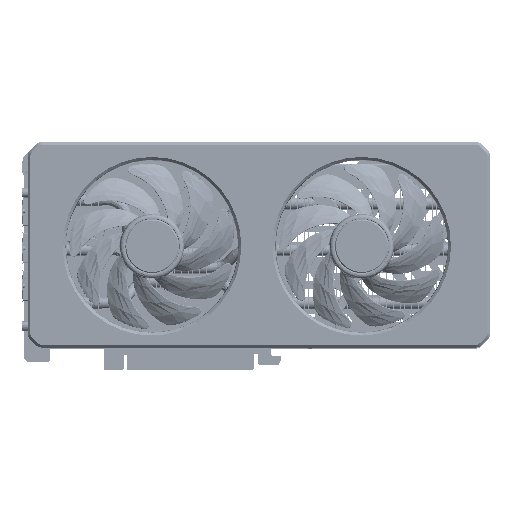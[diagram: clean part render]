
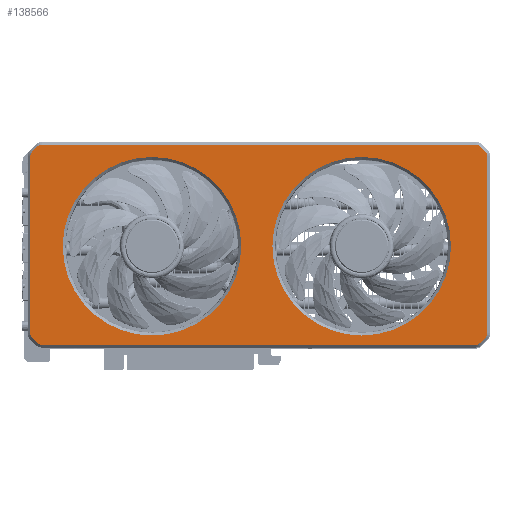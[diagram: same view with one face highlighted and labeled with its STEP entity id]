
A CAD part, top view. The second image highlights one B-rep face of the part: STEP entity #138566.
In plain terms, the highlighted planar face has unit normal (0, 0, 1).
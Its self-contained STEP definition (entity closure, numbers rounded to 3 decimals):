
#131280=CARTESIAN_POINT('',(0.,-59.,23.564));
#131281=DIRECTION('',(0.,0.,-1.));
#131282=DIRECTION('',(1.,0.,0.));
#131283=AXIS2_PLACEMENT_3D('',#131280,#131281,#131282);
#131285=CARTESIAN_POINT('',(0.,-59.,23.564));
#131286=DIRECTION('',(0.,0.,-1.));
#131287=DIRECTION('',(-1.,0.,0.));
#131288=AXIS2_PLACEMENT_3D('',#131285,#131286,#131287);
#131290=CARTESIAN_POINT('',(0.,59.,23.564));
#131291=DIRECTION('',(0.,0.,-1.));
#131292=DIRECTION('',(-1.,0.,0.));
#131293=AXIS2_PLACEMENT_3D('',#131290,#131291,#131292);
#131295=CARTESIAN_POINT('',(0.,59.,23.564));
#131296=DIRECTION('',(0.,0.,-1.));
#131297=DIRECTION('',(1.,0.,0.));
#131298=AXIS2_PLACEMENT_3D('',#131295,#131296,#131297);
#131300=CARTESIAN_POINT('',(52.,123.129,23.564));
#131301=DIRECTION('',(0.,0.,1.));
#131302=DIRECTION('',(1.,0.,0.));
#131303=AXIS2_PLACEMENT_3D('',#131300,#131301,#131302);
#131305=DIRECTION('',(0.,1.,0.));
#131306=VECTOR('',#131305,244.058);
#131307=CARTESIAN_POINT('',(55.5,-120.929,
23.564));
#131308=LINE('',#131307,#131306);
#131309=CARTESIAN_POINT('',(52.,-120.929,23.564));
#131310=DIRECTION('',(0.,0.,1.));
#131311=DIRECTION('',(0.707,-0.707,0.));
#131312=AXIS2_PLACEMENT_3D('',#131309,#131310,#131311);
#131314=DIRECTION('',(0.707,0.707,0.));
#131315=VECTOR('',#131314,4.343);
#131316=CARTESIAN_POINT('',(51.404,-126.475,
23.564));
#131317=LINE('',#131316,#131315);
#131318=CARTESIAN_POINT('',(48.929,-124.,23.564));
#131319=DIRECTION('',(0.,0.,1.));
#131320=DIRECTION('',(0.,-1.,0.));
#131321=AXIS2_PLACEMENT_3D('',#131318,#131319,#131320);
#131323=DIRECTION('',(1.,0.,0.));
#131324=VECTOR('',#131323,99.558);
#131325=CARTESIAN_POINT('',(-50.629,-127.5,
23.564));
#131326=LINE('',#131325,#131324);
#131327=CARTESIAN_POINT('',(-50.629,-124.,23.564));
#131328=DIRECTION('',(0.,0.,1.));
#131329=DIRECTION('',(-0.707,-0.707,0.));
#131330=AXIS2_PLACEMENT_3D('',#131327,#131328,#131329);
#131332=DIRECTION('',(0.707,-0.707,0.));
#131333=VECTOR('',#131332,4.343);
#131334=CARTESIAN_POINT('',(-56.175,-123.404,
23.564));
#131335=LINE('',#131334,#131333);
#131336=CARTESIAN_POINT('',(-53.7,-120.929,23.564));
#131337=DIRECTION('',(0.,0.,1.));
#131338=DIRECTION('',(-1.,0.,0.));
#131339=AXIS2_PLACEMENT_3D('',#131336,#131337,#131338);
#131341=DIRECTION('',(0.,-1.,0.));
#131342=VECTOR('',#131341,244.058);
#131343=CARTESIAN_POINT('',(-57.2,123.129,
23.564));
#131344=LINE('',#131343,#131342);
#131345=CARTESIAN_POINT('',(-53.7,123.129,23.564));
#131346=DIRECTION('',(0.,0.,1.));
#131347=DIRECTION('',(-0.707,0.707,0.));
#131348=AXIS2_PLACEMENT_3D('',#131345,#131346,#131347);
#131350=DIRECTION('',(-0.707,-0.707,0.));
#131351=VECTOR('',#131350,4.343);
#131352=CARTESIAN_POINT('',(-53.104,128.675,
23.564));
#131353=LINE('',#131352,#131351);
#131354=CARTESIAN_POINT('',(-50.629,126.2,23.564));
#131355=DIRECTION('',(0.,0.,1.));
#131356=DIRECTION('',(0.,1.,0.));
#131357=AXIS2_PLACEMENT_3D('',#131354,#131355,#131356);
#131359=DIRECTION('',(-1.,0.,0.));
#131360=VECTOR('',#131359,99.558);
#131361=CARTESIAN_POINT('',(48.929,129.7,
23.564));
#131362=LINE('',#131361,#131360);
#131363=CARTESIAN_POINT('',(48.929,126.2,23.564));
#131364=DIRECTION('',(0.,0.,1.));
#131365=DIRECTION('',(0.707,0.707,0.));
#131366=AXIS2_PLACEMENT_3D('',#131363,#131364,#131365);
#131368=DIRECTION('',(-0.707,0.707,0.));
#131369=VECTOR('',#131368,4.343);
#131370=CARTESIAN_POINT('',(54.475,125.604,
23.564));
#131371=LINE('',#131370,#131369);
#135402=CARTESIAN_POINT('',(50.25,-59.,23.564));
#135403=CARTESIAN_POINT('',(-50.25,-59.,23.564));
#135404=VERTEX_POINT('',#135402);
#135405=VERTEX_POINT('',#135403);
#135410=CARTESIAN_POINT('',(-50.25,59.,23.564));
#135411=CARTESIAN_POINT('',(50.25,59.,23.564));
#135412=VERTEX_POINT('',#135410);
#135413=VERTEX_POINT('',#135411);
#135418=CARTESIAN_POINT('',(55.5,123.129,23.564));
#135419=CARTESIAN_POINT('',(54.475,125.604,
23.564));
#135420=VERTEX_POINT('',#135418);
#135421=VERTEX_POINT('',#135419);
#135426=CARTESIAN_POINT('',(51.404,128.675,
23.564));
#135427=VERTEX_POINT('',#135426);
#135430=CARTESIAN_POINT('',(48.929,129.7,23.564));
#135431=VERTEX_POINT('',#135430);
#135434=CARTESIAN_POINT('',(-50.629,129.7,
23.564));
#135435=VERTEX_POINT('',#135434);
#135438=CARTESIAN_POINT('',(-53.104,128.675,
23.564));
#135439=VERTEX_POINT('',#135438);
#135442=CARTESIAN_POINT('',(-56.175,125.604,
23.564));
#135443=VERTEX_POINT('',#135442);
#135446=CARTESIAN_POINT('',(-57.2,123.129,23.564));
#135447=VERTEX_POINT('',#135446);
#135450=CARTESIAN_POINT('',(-57.2,-120.929,
23.564));
#135451=VERTEX_POINT('',#135450);
#135454=CARTESIAN_POINT('',(-56.175,-123.404,
23.564));
#135455=VERTEX_POINT('',#135454);
#135458=CARTESIAN_POINT('',(-53.104,-126.475,
23.564));
#135459=VERTEX_POINT('',#135458);
#135462=CARTESIAN_POINT('',(-50.629,-127.5,23.564));
#135463=VERTEX_POINT('',#135462);
#135466=CARTESIAN_POINT('',(48.929,-127.5,
23.564));
#135467=VERTEX_POINT('',#135466);
#135470=CARTESIAN_POINT('',(51.404,-126.475,
23.564));
#135471=VERTEX_POINT('',#135470);
#135474=CARTESIAN_POINT('',(54.475,-123.404,
23.564));
#135475=VERTEX_POINT('',#135474);
#135478=CARTESIAN_POINT('',(55.5,-120.929,23.564));
#135479=VERTEX_POINT('',#135478);
#138516=CARTESIAN_POINT('',(-56.5,129.,23.564));
#138517=DIRECTION('',(0.,0.,1.));
#138518=DIRECTION('',(0.,1.,0.));
#138519=AXIS2_PLACEMENT_3D('',#138516,#138517,#138518);
#138520=PLANE('',#138519);
#138522=ORIENTED_EDGE('',*,*,#138521,.F.);
#138524=ORIENTED_EDGE('',*,*,#138523,.F.);
#138526=ORIENTED_EDGE('',*,*,#138525,.F.);
#138528=ORIENTED_EDGE('',*,*,#138527,.F.);
#138530=ORIENTED_EDGE('',*,*,#138529,.F.);
#138532=ORIENTED_EDGE('',*,*,#138531,.F.);
#138534=ORIENTED_EDGE('',*,*,#138533,.F.);
#138536=ORIENTED_EDGE('',*,*,#138535,.F.);
#138537=ORIENTED_EDGE('',*,*,#138506,.F.);
#138539=ORIENTED_EDGE('',*,*,#138538,.F.);
#138541=ORIENTED_EDGE('',*,*,#138540,.F.);
#138543=ORIENTED_EDGE('',*,*,#138542,.F.);
#138545=ORIENTED_EDGE('',*,*,#138544,.F.);
#138547=ORIENTED_EDGE('',*,*,#138546,.F.);
#138549=ORIENTED_EDGE('',*,*,#138548,.F.);
#138551=ORIENTED_EDGE('',*,*,#138550,.F.);
#138552=EDGE_LOOP('',(#138522,#138524,#138526,#138528,#138530,#138532,#138534,
#138536,#138537,#138539,#138541,#138543,#138545,#138547,#138549,#138551));
#138553=FACE_OUTER_BOUND('',#138552,.F.);
#138555=ORIENTED_EDGE('',*,*,#138554,.F.);
#138557=ORIENTED_EDGE('',*,*,#138556,.F.);
#138558=EDGE_LOOP('',(#138555,#138557));
#138559=FACE_BOUND('',#138558,.F.);
#138561=ORIENTED_EDGE('',*,*,#138560,.F.);
#138563=ORIENTED_EDGE('',*,*,#138562,.F.);
#138564=EDGE_LOOP('',(#138561,#138563));
#138565=FACE_BOUND('',#138564,.F.);
#131284=CIRCLE('',#131283,50.25);
#131289=CIRCLE('',#131288,50.25);
#131294=CIRCLE('',#131293,50.25);
#131299=CIRCLE('',#131298,50.25);
#131304=CIRCLE('',#131303,3.5);
#131313=CIRCLE('',#131312,3.5);
#131322=CIRCLE('',#131321,3.5);
#131331=CIRCLE('',#131330,3.5);
#131340=CIRCLE('',#131339,3.5);
#131349=CIRCLE('',#131348,3.5);
#131358=CIRCLE('',#131357,3.5);
#131367=CIRCLE('',#131366,3.5);
#138506=EDGE_CURVE('',#135451,#135455,#131340,.T.);
#138521=EDGE_CURVE('',#135420,#135421,#131304,.T.);
#138523=EDGE_CURVE('',#135479,#135420,#131308,.T.);
#138525=EDGE_CURVE('',#135475,#135479,#131313,.T.);
#138527=EDGE_CURVE('',#135471,#135475,#131317,.T.);
#138529=EDGE_CURVE('',#135467,#135471,#131322,.T.);
#138531=EDGE_CURVE('',#135463,#135467,#131326,.T.);
#138533=EDGE_CURVE('',#135459,#135463,#131331,.T.);
#138535=EDGE_CURVE('',#135455,#135459,#131335,.T.);
#138538=EDGE_CURVE('',#135447,#135451,#131344,.T.);
#138540=EDGE_CURVE('',#135443,#135447,#131349,.T.);
#138542=EDGE_CURVE('',#135439,#135443,#131353,.T.);
#138544=EDGE_CURVE('',#135435,#135439,#131358,.T.);
#138546=EDGE_CURVE('',#135431,#135435,#131362,.T.);
#138548=EDGE_CURVE('',#135427,#135431,#131367,.T.);
#138550=EDGE_CURVE('',#135421,#135427,#131371,.T.);
#138554=EDGE_CURVE('',#135412,#135413,#131294,.T.);
#138556=EDGE_CURVE('',#135413,#135412,#131299,.T.);
#138560=EDGE_CURVE('',#135404,#135405,#131284,.T.);
#138562=EDGE_CURVE('',#135405,#135404,#131289,.T.);
#138566=ADVANCED_FACE('',(#138553,#138559,#138565),#138520,.T.);
